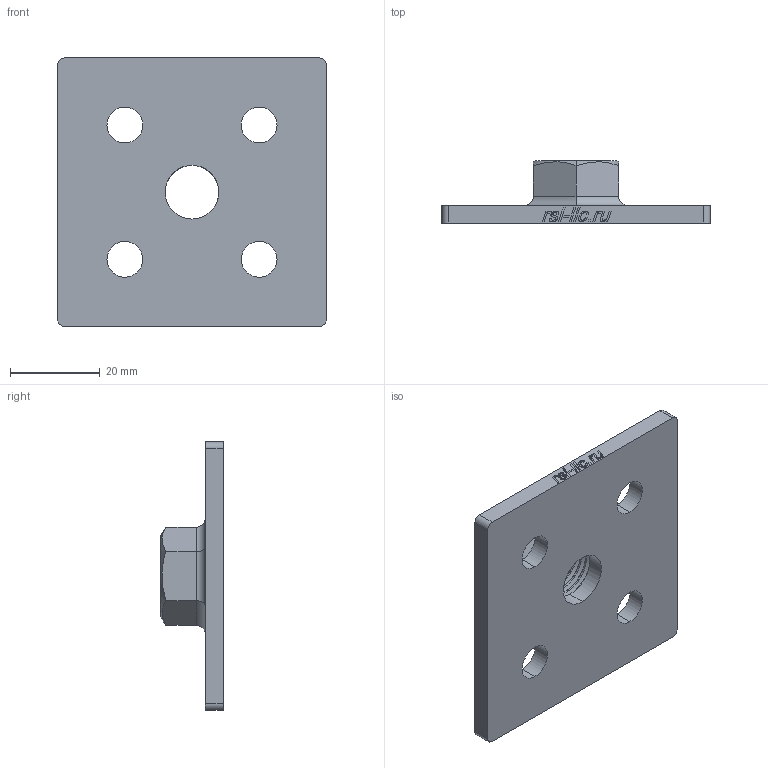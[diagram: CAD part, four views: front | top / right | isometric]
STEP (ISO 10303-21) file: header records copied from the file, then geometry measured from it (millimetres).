
FILE_DESCRIPTION (( 'STEP AP214' ), '1' );
FILE_NAME ('7004-S4(Ì12).STEP', '2020-11-03T12:52:43', ( '' ), ( '' ), 'SwSTEP 2.0', 'SolidWorks 2018', '' );
FILE_SCHEMA (( 'AUTOMOTIVE_DESIGN' ));
Length unit declared in the file: millimetre
Products named in the file (1): 7004-S4(ﾌ12)
Bounding box: 60 x 14 x 60.1 mm (x, y, z)
Volume: 15023.6 mm3; surface area: 9306.3 mm2
Topology: 1 solids, 1 shells, 146 faces, 388 edges, 256 vertices
Faces by surface type: plane 76, bspline 35, cylinder 33, cone 2
Entity records: 8527 total; most frequent: CARTESIAN_POINT 4141, ORIENTED_EDGE 776, DIRECTION 530, EDGE_CURVE 388, VERTEX_POINT 256, VECTOR 248, LINE 248, EDGE_LOOP 168
